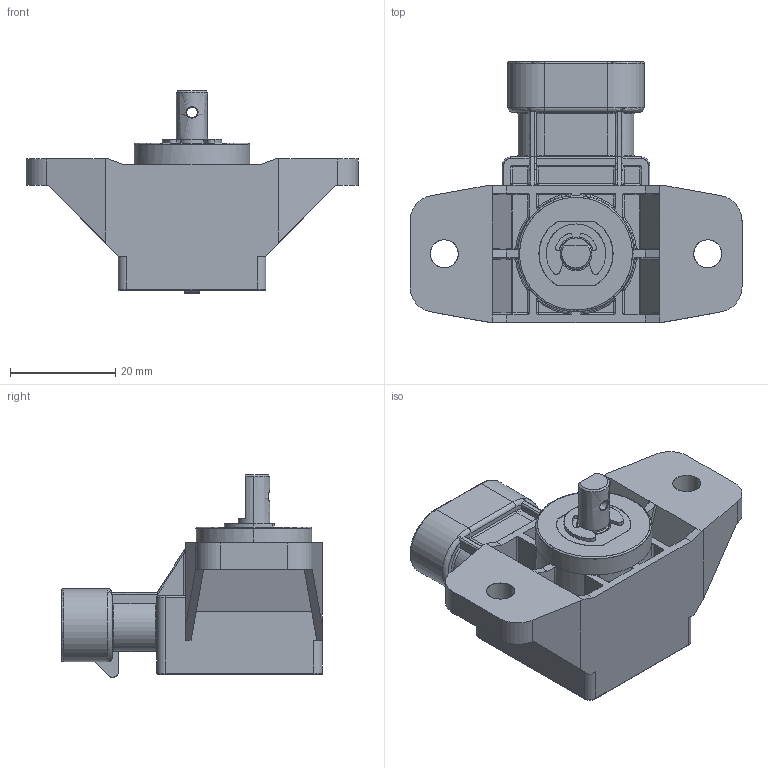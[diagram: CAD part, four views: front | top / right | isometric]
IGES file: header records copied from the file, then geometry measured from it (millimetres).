
Start section: SolidWorks IGES file using analytic representation for surfaces
Global section: file name: \\srv4gefran\dir-cat\Disegni Catalogo\Mobile\GR3P\GR3P 50\3D\Solidworks 2024\GR3PA S5H2HS xxx xxxx X0.IGS; native system: SolidWorks 2024; preprocessor: SolidWorks 2024; author: Loda-w1; date: 241219.162554; units: millimetre
Bounding box: 63 x 49.5 x 38.47 mm (x, y, z)
Surface area: 12807.9 mm2 (no closed solid volume)
Topology: 0 solids, 0 shells, 528 faces, 4554 edges, 4514 vertices
Faces by surface type: bspline 295, revolution 233
